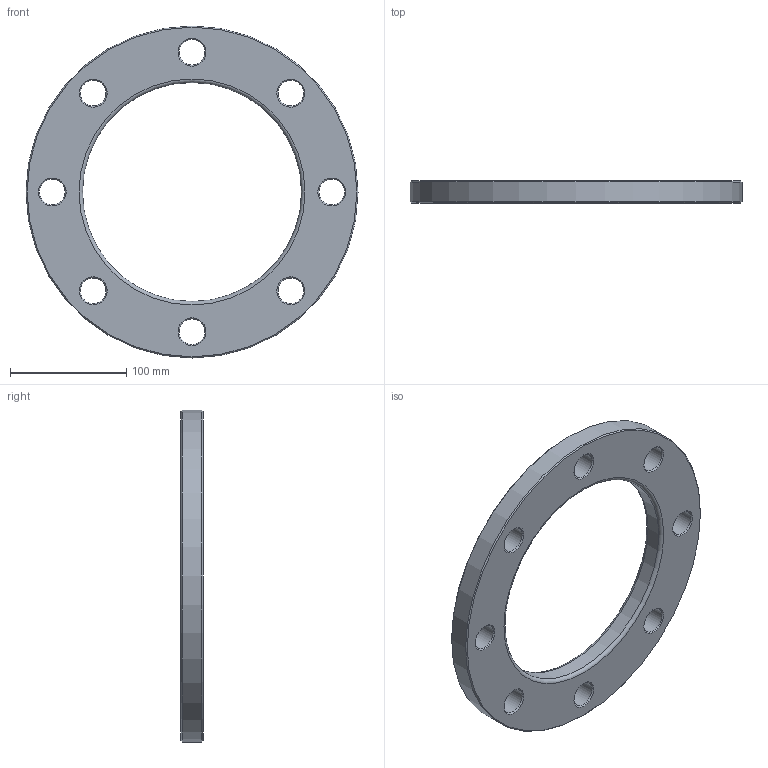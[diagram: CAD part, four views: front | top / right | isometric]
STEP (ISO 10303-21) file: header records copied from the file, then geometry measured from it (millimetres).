
FILE_DESCRIPTION(/* description */ ('Unknown'),/* implementation_level */ '2;1');
FILE_NAME(/* name */ 'FZ180C',/* time_stamp */ '2021-03-15T12:01:41+01:00',/* author */ ('Unknown'),/* organization */ ('Unknown'),/* preprocessor_version */ 'ST-DEVELOPER v16.7',/* originating_system */ 'Solid Edge',/* authorisation */ 'Unknown');
FILE_SCHEMA (('AUTOMOTIVE_DESIGN {1 0 10303 214 3 1 1}'));
Length unit declared in the file: millimetre
Products named in the file (1): FZ180C
Bounding box: 285 x 19 x 285 mm (x, y, z)
Volume: 623121.4 mm3; surface area: 101535.1 mm2
Topology: 1 solids, 1 shells, 32 faces, 94 edges, 64 vertices
Faces by surface type: cone 18, cylinder 10, plane 2, torus 2
Full cylindrical faces by diameter (mm): 22 x8, 188 x1, 285 x1
Entity records: 790 total; most frequent: DIRECTION 146, CARTESIAN_POINT 113, ORIENTED_EDGE 80, EDGE_LOOP 80, FACE_BOUND 80, AXIS2_PLACEMENT_3D 73, EDGE_CURVE 40, VERTEX_POINT 40
